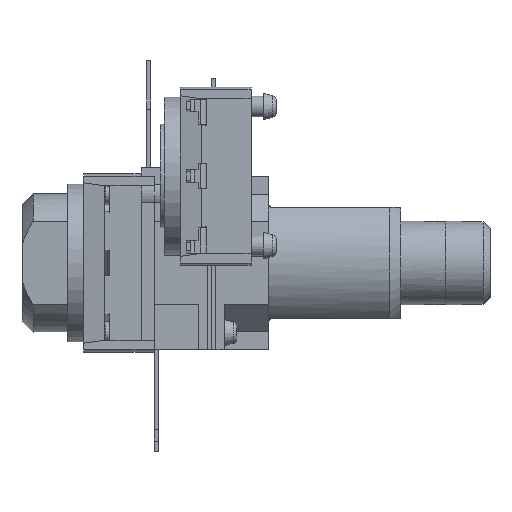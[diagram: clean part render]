
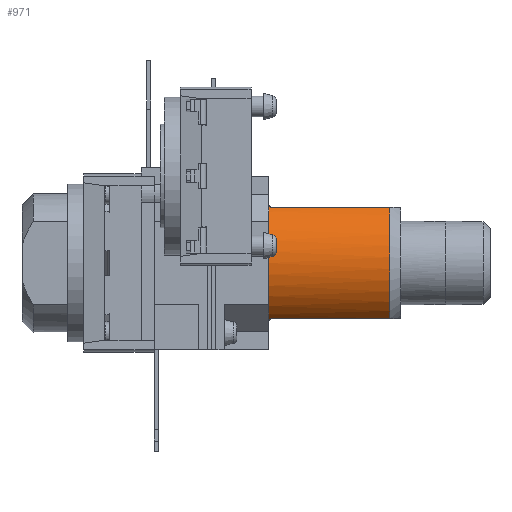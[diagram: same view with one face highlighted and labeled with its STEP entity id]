
A CAD part, front view. The second image highlights one B-rep face of the part: STEP entity #971.
In plain terms, the highlighted cylindrical face has radius 5 mm (diameter 10 mm), a partial arc.
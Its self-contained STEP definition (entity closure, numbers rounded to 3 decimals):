
#971 = ADVANCED_FACE( '', ( #2244 ), #2245, .T. );
#2244 = FACE_OUTER_BOUND( '', #3827, .T. );
#2245 = CYLINDRICAL_SURFACE( '', #3828, 5. );
#3827 = EDGE_LOOP( '', ( #8108, #8109, #8110, #8111, #8112, #8113 ) );
#3828 = AXIS2_PLACEMENT_3D( '', #8114, #8115, #8116 );
#8108 = ORIENTED_EDGE( '', *, *, #9876, .F. );
#8109 = ORIENTED_EDGE( '', *, *, #9877, .T. );
#8110 = ORIENTED_EDGE( '', *, *, #9878, .T. );
#8111 = ORIENTED_EDGE( '', *, *, #9879, .T. );
#8112 = ORIENTED_EDGE( '', *, *, #9880, .F. );
#8113 = ORIENTED_EDGE( '', *, *, #9881, .F. );
#8114 = CARTESIAN_POINT( '', ( -8.6, 0., 0. ) );
#8115 = DIRECTION( '', ( -1., 0., 0. ) );
#8116 = DIRECTION( '', ( 0., 0., -1. ) );
#9876 = EDGE_CURVE( '', #12223, #12224, #12225, .T. );
#9877 = EDGE_CURVE( '', #12223, #12226, #12227, .T. );
#9878 = EDGE_CURVE( '', #12226, #12228, #12229, .T. );
#9879 = EDGE_CURVE( '', #12228, #12230, #12231, .T. );
#9880 = EDGE_CURVE( '', #12232, #12230, #12233, .T. );
#9881 = EDGE_CURVE( '', #12224, #12232, #12234, .T. );
#12223 = VERTEX_POINT( '', #16237 );
#12224 = VERTEX_POINT( '', #16238 );
#12225 = CIRCLE( '', #16239, 5. );
#12226 = VERTEX_POINT( '', #16240 );
#12227 = LINE( '', #16241, #16242 );
#12228 = VERTEX_POINT( '', #16243 );
#12229 = B_SPLINE_CURVE_WITH_KNOTS( '', 3, ( #16244, #16245, #16246, #16247, #16248, #16249, #16250, #16251 ), .UNSPECIFIED., .F., .F., ( 4, 2, 2, 4 ), ( 0., 0., 0., 0. ), .UNSPECIFIED. );
#12230 = VERTEX_POINT( '', #16252 );
#12231 = CIRCLE( '', #16253, 5. );
#12232 = VERTEX_POINT( '', #16254 );
#12233 = B_SPLINE_CURVE_WITH_KNOTS( '', 3, ( #16255, #16256, #16257, #16258, #16259, #16260, #16261, #16262 ), .UNSPECIFIED., .F., .F., ( 4, 2, 2, 4 ), ( 0., 0., 0., 0. ), .UNSPECIFIED. );
#12234 = LINE( '', #16263, #16264 );
#16237 = CARTESIAN_POINT( '', ( -8.7, 4., -3. ) );
#16238 = CARTESIAN_POINT( '', ( -8.7, -4., -3. ) );
#16239 = AXIS2_PLACEMENT_3D( '', #18670, #18671, #18672 );
#16240 = CARTESIAN_POINT( '', ( -0.2, 4., -3. ) );
#16241 = CARTESIAN_POINT( '', ( -8.6, 4., -3. ) );
#16242 = VECTOR( '', #18673, 1000. );
#16243 = CARTESIAN_POINT( '', ( 0., 4.2, -2.713 ) );
#16244 = CARTESIAN_POINT( '', ( -0.2, 4., -3. ) );
#16245 = CARTESIAN_POINT( '', ( -0.163, 4., -3. ) );
#16246 = CARTESIAN_POINT( '', ( -0.128, 4.011, -2.985 ) );
#16247 = CARTESIAN_POINT( '', ( -0.075, 4.041, -2.944 ) );
#16248 = CARTESIAN_POINT( '', ( -0.055, 4.06, -2.918 ) );
#16249 = CARTESIAN_POINT( '', ( -0.011, 4.118, -2.836 ) );
#16250 = CARTESIAN_POINT( '', ( 0., 4.16, -2.775 ) );
#16251 = CARTESIAN_POINT( '', ( 0., 4.2, -2.713 ) );
#16252 = CARTESIAN_POINT( '', ( 0., -4.2, -2.713 ) );
#16253 = AXIS2_PLACEMENT_3D( '', #18674, #18675, #18676 );
#16254 = CARTESIAN_POINT( '', ( -0.2, -4., -3. ) );
#16255 = CARTESIAN_POINT( '', ( -0.2, -4., -3. ) );
#16256 = CARTESIAN_POINT( '', ( -0.163, -4., -3. ) );
#16257 = CARTESIAN_POINT( '', ( -0.128, -4.011, -2.985 ) );
#16258 = CARTESIAN_POINT( '', ( -0.075, -4.041, -2.944 ) );
#16259 = CARTESIAN_POINT( '', ( -0.055, -4.06, -2.918 ) );
#16260 = CARTESIAN_POINT( '', ( -0.011, -4.118, -2.836 ) );
#16261 = CARTESIAN_POINT( '', ( 0., -4.16, -2.775 ) );
#16262 = CARTESIAN_POINT( '', ( 0., -4.2, -2.713 ) );
#16263 = CARTESIAN_POINT( '', ( -8.6, -4., -3. ) );
#16264 = VECTOR( '', #18677, 1000. );
#18670 = CARTESIAN_POINT( '', ( -8.7, 0., 0. ) );
#18671 = DIRECTION( '', ( -1., 0., 0. ) );
#18672 = DIRECTION( '', ( 0., 0., 1. ) );
#18673 = DIRECTION( '', ( 1., 0., 0. ) );
#18674 = CARTESIAN_POINT( '', ( 0., 0., 0. ) );
#18675 = DIRECTION( '', ( -1., 0., 0. ) );
#18676 = DIRECTION( '', ( 0., -1., 0. ) );
#18677 = DIRECTION( '', ( 1., 0., 0. ) );
